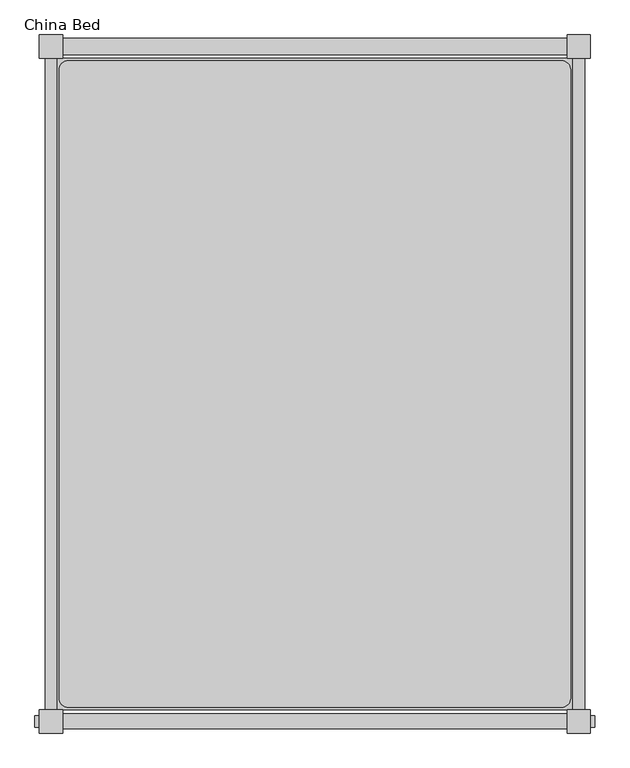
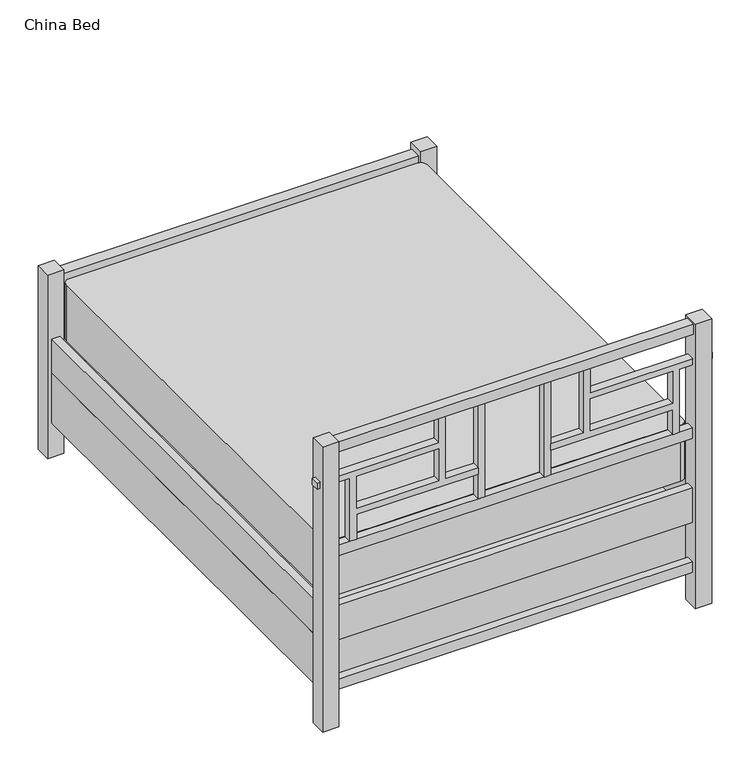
"""IFC4 building model written with IfcOpenShell, lengths in millimetres: furniture geometry, 臥床_001 : China Bed."""

from ifc_helpers import new_model, si_unit, point, frame, frame_2d, origin, origin_with_axes, place, context, project, spatial, polyline, circle_curve, trimmed, segment, composite_curve, outline, extrude, source, transform, mapped, element, save


def china_bed_4dd21ba8(model_context):
    return source(origin(), model_context, "Body", "SweptSolid", [
        extrude(outline(polyline([(1009.65, 292.1), (1111.25, 292.1), (1111.25, 266.7), (854.075, 266.7), (854.075, 139.7), (828.675, 139.7), (828.675, 609.6), (727.075, 609.6), (727.075, 635.0), (984.25, 635.0), (984.25, 762.0), (1009.65, 762.0), (1009.65, 292.1)]), holes=[polyline([(854.075, 292.1), (984.25, 292.1), (984.25, 609.6), (854.075, 609.6), (854.075, 292.1)])]), frame((0.0, 15.875, 0.0), z_axis=(0.0, 1.0, 0.0), x_axis=(0.0, 0.0, 1.0)), (0.0, 0.0, 1.0), 31.75),
        extrude(outline(polyline([(1009.65, -292.1), (1009.65, -762.0), (984.25, -762.0), (984.25, -635.0), (727.075, -635.0), (727.075, -609.6), (828.675, -609.6), (828.675, -139.7), (854.075, -139.7), (854.075, -266.7), (1111.25, -266.7), (1111.25, -292.1), (1009.65, -292.1)]), holes=[polyline([(854.075, -292.1), (854.075, -609.6), (984.25, -609.6), (984.25, -292.1), (854.075, -292.1)])]), frame((0.0, 15.875, 0.0), z_axis=(0.0, 1.0, 0.0), x_axis=(0.0, 0.0, 1.0)), (0.0, 0.0, 1.0), 31.75),
        extrude(outline(polyline([(-114.3, 15.875), (-139.7, 15.875), (-139.7, 47.625), (-114.3, 47.625), (-114.3, 15.875)])), frame((0.0, 0.0, 727.075), z_axis=(0.0, 0.0, 1.0), x_axis=(1.0, 0.0, 0.0)), (0.0, 0.0, 1.0), 384.175),
        extrude(outline(polyline([(114.3, 15.875), (114.3, 47.625), (139.7, 47.625), (139.7, 15.875), (114.3, 15.875)])), frame((0.0, 0.0, 727.075), z_axis=(0.0, 0.0, 1.0), x_axis=(1.0, 0.0, 0.0)), (0.0, 0.0, 1.0), 384.175),
        extrude(outline(polyline([(686.5, 1846.025), (-686.5, 1846.025), (-686.5, 1890.475), (686.5, 1890.475), (686.5, 1846.025)])), frame((0.0, 0.0, 685.8), z_axis=(0.0, 0.0, 1.0), x_axis=(1.0, 0.0, 0.0)), (0.0, 0.0, 1.0), 41.275),
        extrude(outline(polyline([(-114.3, 1890.475), (-114.3, 1846.025), (-139.7, 1846.025), (-139.7, 1890.475), (-114.3, 1890.475)])), frame((0.0, 0.0, 482.6), z_axis=(0.0, 0.0, 1.0), x_axis=(1.0, 0.0, 0.0)), (0.0, 0.0, 1.0), 203.2),
        extrude(outline(polyline([(114.3, 1890.475), (139.7, 1890.475), (139.7, 1846.025), (114.3, 1846.025), (114.3, 1890.475)])), frame((0.0, 0.0, 482.6), z_axis=(0.0, 0.0, 1.0), x_axis=(1.0, 0.0, 0.0)), (0.0, 0.0, 1.0), 203.2),
        extrude(outline(polyline([(-114.3, 1890.475), (-114.3, 1846.025), (-139.7, 1846.025), (-139.7, 1890.475), (-114.3, 1890.475)])), frame((0.0, 0.0, 180.975), z_axis=(0.0, 0.0, 1.0), x_axis=(1.0, 0.0, 0.0)), (0.0, 0.0, 1.0), 161.925),
        extrude(outline(polyline([(114.3, 1890.475), (139.7, 1890.475), (139.7, 1846.025), (114.3, 1846.025), (114.3, 1890.475)])), frame((0.0, 0.0, 180.975), z_axis=(0.0, 0.0, 1.0), x_axis=(1.0, 0.0, 0.0)), (0.0, 0.0, 1.0), 161.925),
        extrude(outline(composite_curve([segment(trimmed(circle_curve(frame_2d((670.625, 1804.75)), 25.4), [point((670.625, 1830.15))], [point((696.025, 1804.75))], False, "CARTESIAN"), True, "CONTINUOUS"), segment(polyline([(696.025, 1804.75), (696.025, 95.25)]), True, "CONTINUOUS"), segment(trimmed(circle_curve(frame_2d((670.625, 95.25)), 25.4), [point((696.025, 95.25))], [point((670.625, 69.85))], False, "CARTESIAN"), True, "CONTINUOUS"), segment(polyline([(670.625, 69.85), (-670.625, 69.85)]), True, "CONTINUOUS"), segment(trimmed(circle_curve(frame_2d((-670.625, 95.25)), 25.4), [point((-670.625, 69.85))], [point((-696.025, 95.25))], False, "CARTESIAN"), True, "CONTINUOUS"), segment(polyline([(-696.025, 95.25), (-696.025, 1804.75)]), True, "CONTINUOUS"), segment(trimmed(circle_curve(frame_2d((-670.625, 1804.75)), 25.4), [point((-696.025, 1804.75))], [point((-670.625, 1830.15))], False, "CARTESIAN"), True, "CONTINUOUS"), segment(polyline([(-670.625, 1830.15), (670.625, 1830.15)]), True, "CONTINUOUS")], self_intersect=False)), frame((0.0, 0.0, 482.6), z_axis=(0.0, 0.0, 1.0), x_axis=(1.0, 0.0, 0.0)), (0.0, 0.0, 1.0), 228.6),
        extrude(outline(polyline([(734.125, 1836.5), (734.125, 63.5), (-734.125, 63.5), (-734.125, 1836.5), (734.125, 1836.5)])), frame((0.0, 0.0, 139.7), z_axis=(0.0, 0.0, 1.0), x_axis=(1.0, 0.0, 0.0)), (0.0, 0.0, 1.0), 203.2),
        extrude(outline(polyline([(686.5, 47.625), (686.5, 15.875), (-686.5, 15.875), (-686.5, 47.625), (686.5, 47.625)])), frame((0.0, 0.0, 685.8), z_axis=(0.0, 0.0, 1.0), x_axis=(1.0, 0.0, 0.0)), (0.0, 0.0, 1.0), 41.275),
        extrude(outline(polyline([(686.5, 52.3875), (686.5, 11.1125), (-686.5, 11.1125), (-686.5, 52.3875), (686.5, 52.3875)])), frame((0.0, 0.0, 1111.25), z_axis=(0.0, 0.0, 1.0), x_axis=(1.0, 0.0, 0.0)), (0.0, 0.0, 1.0), 41.275),
        extrude(outline(polyline([(686.5, 47.625), (686.5, 15.875), (-686.5, 15.875), (-686.5, 47.625), (686.5, 47.625)])), frame((0.0, 0.0, 139.7), z_axis=(0.0, 0.0, 1.0), x_axis=(1.0, 0.0, 0.0)), (0.0, 0.0, 1.0), 41.275),
        extrude(outline(polyline([(686.5, 1890.475), (686.5, 1846.025), (-686.5, 1846.025), (-686.5, 1890.475), (686.5, 1890.475)])), frame((0.0, 0.0, 139.7), z_axis=(0.0, 0.0, 1.0), x_axis=(1.0, 0.0, 0.0)), (0.0, 0.0, 1.0), 41.275),
        extrude(outline(polyline([(686.5, 1846.025), (-686.5, 1846.025), (-686.5, 1890.475), (686.5, 1890.475), (686.5, 1846.025)])), frame((0.0, 0.0, 342.9), z_axis=(0.0, 0.0, 1.0), x_axis=(1.0, 0.0, 0.0)), (0.0, 0.0, 1.0), 139.7),
        extrude(outline(polyline([(702.375, 63.5), (702.375, 1836.5), (734.125, 1836.5), (734.125, 63.5), (702.375, 63.5)])), frame((0.0, 0.0, 342.9), z_axis=(0.0, 0.0, 1.0), x_axis=(1.0, 0.0, 0.0)), (0.0, 0.0, 1.0), 139.7),
        extrude(outline(polyline([(686.5, 47.625), (686.5, 15.875), (-686.5, 15.875), (-686.5, 47.625), (686.5, 47.625)])), frame((0.0, 0.0, 342.9), z_axis=(0.0, 0.0, 1.0), x_axis=(1.0, 0.0, 0.0)), (0.0, 0.0, 1.0), 139.7),
        extrude(outline(polyline([(-702.375, 63.5), (-734.125, 63.5), (-734.125, 1836.5), (-702.375, 1836.5), (-702.375, 63.5)])), frame((0.0, 0.0, 342.9), z_axis=(0.0, 0.0, 1.0), x_axis=(1.0, 0.0, 0.0)), (0.0, 0.0, 1.0), 139.7),
        extrude(outline(polyline([(686.5, 0.0), (686.5, 63.5), (750.0, 63.5), (750.0, 0.0), (686.5, 0.0)])), origin_with_axes(), (0.0, 0.0, 1.0), 1160.4625),
        extrude(outline(polyline([(-686.5, 0.0), (-750.0, 0.0), (-750.0, 63.5), (-686.5, 63.5), (-686.5, 0.0)])), origin_with_axes(), (0.0, 0.0, 1.0), 1160.4625),
        extrude(outline(polyline([(-686.5, 1900.0), (-686.5, 1836.5), (-750.0, 1836.5), (-750.0, 1900.0), (-686.5, 1900.0)])), origin_with_axes(), (0.0, 0.0, 1.0), 749.3),
        extrude(outline(polyline([(686.5, 1900.0), (750.0, 1900.0), (750.0, 1836.5), (686.5, 1836.5), (686.5, 1900.0)])), origin_with_axes(), (0.0, 0.0, 1.0), 749.3),
    ])


if __name__ == "__main__":
    model = new_model("IFC4")
    model_context = context("Model", 3, world=origin())
    ifc_project = project(units=[si_unit("LENGTHUNIT", "METRE", prefix="MILLI")], contexts=[model_context])
    site = spatial("IfcSite", under=ifc_project)
    building = spatial("IfcBuilding", under=site)
    placement = place(None, origin())
    china_bed_shape = china_bed_4dd21ba8(model_context)
    element("IfcFurniture", 1, ObjectType="臥床_001 : China Bed", at=placement, inside=building, context=model_context, shape_type="MappedRepresentation", body=[
        mapped(china_bed_shape, transform((0.0, 0.0, 0.0), x_axis=(1.0, 0.0, 0.0), y_axis=(0.0, 1.0, 0.0), z_axis=(0.0, 0.0, 1.0))),
    ])
    save(model, "model.ifc")
